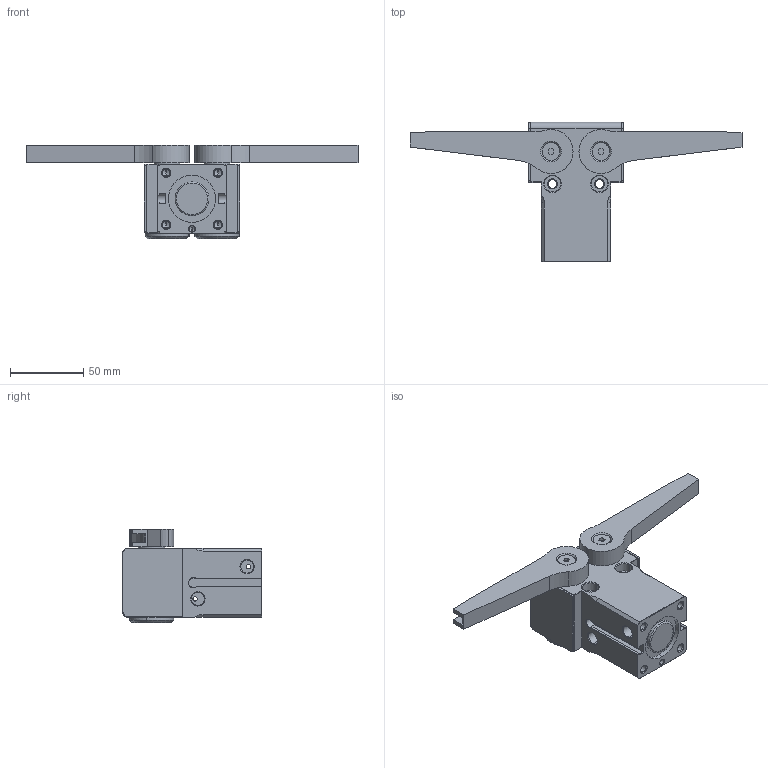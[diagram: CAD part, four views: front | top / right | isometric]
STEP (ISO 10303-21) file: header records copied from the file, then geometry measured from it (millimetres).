
FILE_DESCRIPTION (( 'STEP AP214' ), '1' );
FILE_NAME ('SUMiSU-SDZGW901.STEP', '2026-03-27T08:13:52', ( '' ), ( '' ), 'SwSTEP 2.0', 'SolidWorks 2024', '' );
FILE_SCHEMA (( 'AUTOMOTIVE_DESIGN' ));
Length unit declared in the file: millimetre
Products named in the file (4): W901-02; SUMiSU-SDZGW901; W901-03; W901-01
Assembly tree (3 placements, depth 2):
  SUMiSU-SDZGW901
    W901-01
    W901-03
    W901-02
Bounding box: 226 x 95 x 63.5 mm (x, y, z)
Volume: 177948.7 mm3; surface area: 72514.9 mm2
Topology: 3 solids, 12 shells, 572 faces, 1321 edges, 784 vertices
Faces by surface type: plane 216, cone 179, cylinder 171, bspline 4, torus 2
Entity records: 16681 total; most frequent: CARTESIAN_POINT 3569, DIRECTION 2842, ORIENTED_EDGE 2574, EDGE_CURVE 1287, AXIS2_PLACEMENT_3D 1049, VERTEX_POINT 784, VECTOR 744, LINE 744
